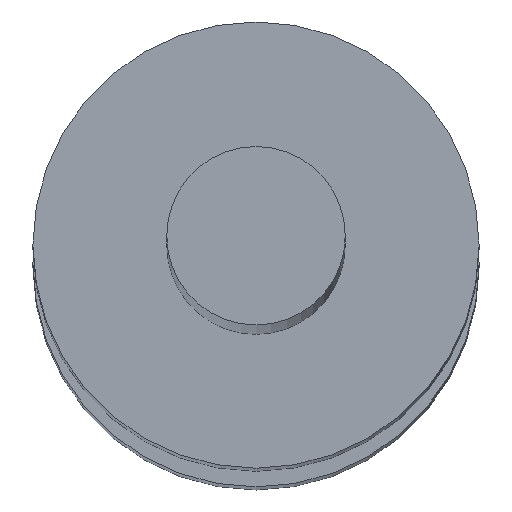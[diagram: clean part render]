
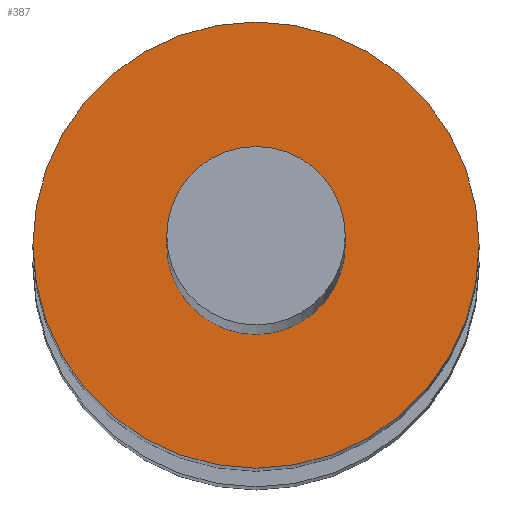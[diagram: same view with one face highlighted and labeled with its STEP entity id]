
A CAD part, top view. The second image highlights one B-rep face of the part: STEP entity #387.
In plain terms, the highlighted planar face has unit normal (0, 0, 1).
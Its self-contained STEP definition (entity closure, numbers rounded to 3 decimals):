
#2 = DIRECTION ( 'NONE',  ( 0., 0., 1. ) ) ;
#33 = EDGE_LOOP ( 'NONE', ( #811, #60 ) ) ;
#43 = ORIENTED_EDGE ( 'NONE', *, *, #659, .T. ) ;
#44 = AXIS2_PLACEMENT_3D ( 'NONE', #554, #611, #913 ) ;
#60 = ORIENTED_EDGE ( 'NONE', *, *, #292, .F. ) ;
#66 = DIRECTION ( 'NONE',  ( 1., 0., 0. ) ) ;
#86 = DIRECTION ( 'NONE',  ( 1., 0., 0. ) ) ;
#100 = DIRECTION ( 'NONE',  ( 0., 0., 1. ) ) ;
#178 = DIRECTION ( 'NONE',  ( 1., 0., 0. ) ) ;
#211 = EDGE_CURVE ( 'NONE', #758, #845, #640, .T. ) ;
#232 = DIRECTION ( 'NONE',  ( 0., 0., 1. ) ) ;
#237 = CARTESIAN_POINT ( 'NONE',  ( 0., 0., 10. ) ) ;
#248 = ORIENTED_EDGE ( 'NONE', *, *, #368, .T. ) ;
#292 = EDGE_CURVE ( 'NONE', #845, #758, #303, .T. ) ;
#303 = CIRCLE ( 'NONE', #341, 0.5 ) ;
#341 = AXIS2_PLACEMENT_3D ( 'NONE', #827, #232, #178 ) ;
#368 = EDGE_CURVE ( 'NONE', #541, #411, #433, .T. ) ;
#387 = ADVANCED_FACE ( 'NONE', ( #390, #681 ), #691, .T. ) ;
#390 = FACE_BOUND ( 'NONE', #33, .T. ) ;
#400 = CARTESIAN_POINT ( 'NONE',  ( 0., 0., 10. ) ) ;
#408 = CIRCLE ( 'NONE', #860, 1.25 ) ;
#411 = VERTEX_POINT ( 'NONE', #478 ) ;
#433 = CIRCLE ( 'NONE', #44, 1.25 ) ;
#444 = DIRECTION ( 'NONE',  ( 0., 0., 1. ) ) ;
#478 = CARTESIAN_POINT ( 'NONE',  ( 1.25, 0., 10. ) ) ;
#541 = VERTEX_POINT ( 'NONE', #896 ) ;
#554 = CARTESIAN_POINT ( 'NONE',  ( 0., 0., 10. ) ) ;
#557 = DIRECTION ( 'NONE',  ( 1., 0., 0. ) ) ;
#591 = CARTESIAN_POINT ( 'NONE',  ( 0.5, 0., 10. ) ) ;
#611 = DIRECTION ( 'NONE',  ( 0., 0., 1. ) ) ;
#640 = CIRCLE ( 'NONE', #892, 0.5 ) ;
#650 = AXIS2_PLACEMENT_3D ( 'NONE', #400, #100, #557 ) ;
#659 = EDGE_CURVE ( 'NONE', #411, #541, #408, .T. ) ;
#681 = FACE_OUTER_BOUND ( 'NONE', #796, .T. ) ;
#691 = PLANE ( 'NONE',  #650 ) ;
#758 = VERTEX_POINT ( 'NONE', #780 ) ;
#780 = CARTESIAN_POINT ( 'NONE',  ( -0.5, 0., 10. ) ) ;
#796 = EDGE_LOOP ( 'NONE', ( #248, #43 ) ) ;
#811 = ORIENTED_EDGE ( 'NONE', *, *, #211, .F. ) ;
#827 = CARTESIAN_POINT ( 'NONE',  ( 0., 0., 10. ) ) ;
#845 = VERTEX_POINT ( 'NONE', #591 ) ;
#860 = AXIS2_PLACEMENT_3D ( 'NONE', #237, #2, #86 ) ;
#881 = CARTESIAN_POINT ( 'NONE',  ( 0., 0., 10. ) ) ;
#892 = AXIS2_PLACEMENT_3D ( 'NONE', #881, #444, #66 ) ;
#896 = CARTESIAN_POINT ( 'NONE',  ( -1.25, 0., 10. ) ) ;
#913 = DIRECTION ( 'NONE',  ( 1., 0., 0. ) ) ;
